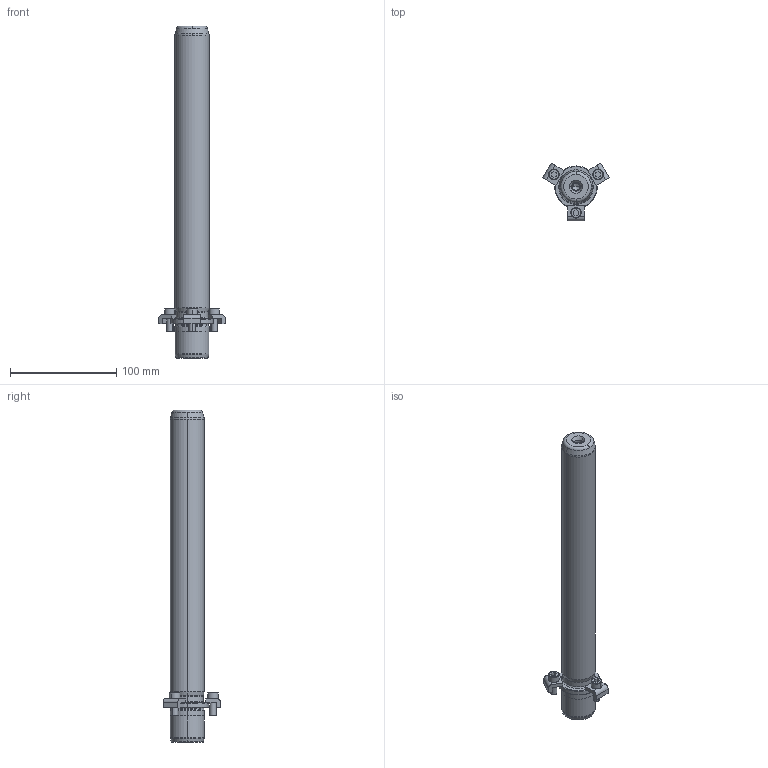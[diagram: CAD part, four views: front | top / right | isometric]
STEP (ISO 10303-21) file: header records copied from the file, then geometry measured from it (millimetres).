
FILE_DESCRIPTION((''),'2;1');
FILE_NAME('P21_032_280.stp','2008-12-23T10:35:48',(''),(''),'Mechanical Desktop 2009','Mechanical Desktop 2009',', , ');
FILE_SCHEMA(('CONFIG_CONTROL_DESIGN'));
Length unit declared in the file: millimetre
Products named in the file (2): Product; blmdl1
Assembly tree (1 placements, depth 2):
  Product
    blmdl1
Bounding box: 62.51 x 54.13 x 312 mm (x, y, z)
Volume: 254316.2 mm3; surface area: 39251 mm2
Topology: 7 solids, 7 shells, 163 faces, 399 edges, 257 vertices
Faces by surface type: plane 59, cylinder 44, cone 32, torus 14, bspline 14
Entity records: 5517 total; most frequent: CARTESIAN_POINT 1433, DIRECTION 908, ORIENTED_EDGE 790, EDGE_CURVE 395, AXIS2_PLACEMENT_3D 362, VERTEX_POINT 257, CIRCLE 211, VECTOR 184
